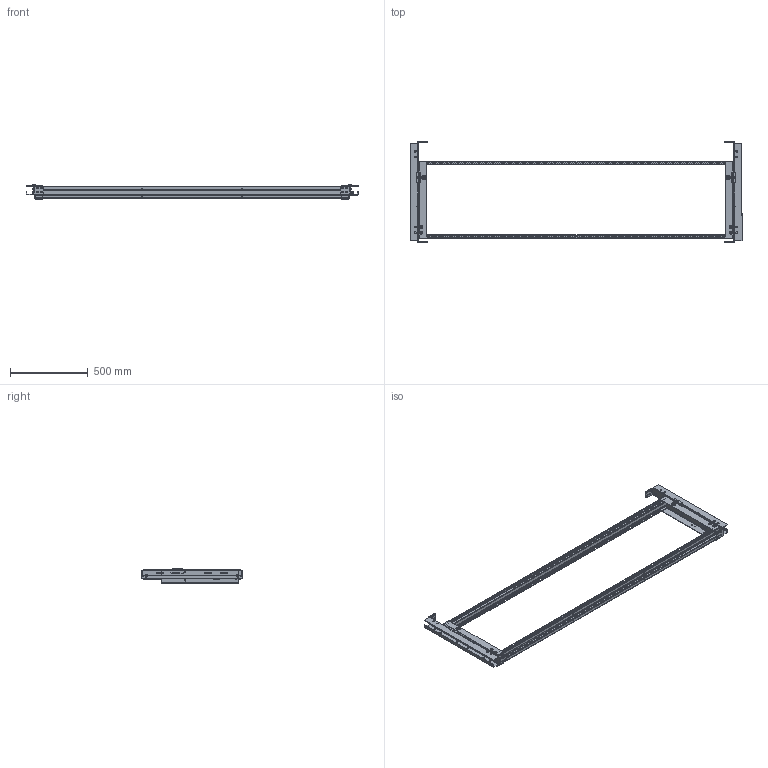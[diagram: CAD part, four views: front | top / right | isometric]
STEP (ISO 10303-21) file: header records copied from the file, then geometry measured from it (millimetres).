
FILE_DESCRIPTION (( 'STEP AP203' ), '1' );
FILE_NAME ('99730.step', '2013-04-16T09:13:57', ( '' ), ( '' ), 'SwSTEP 2.0', 'SolidWorks 2010', '' );
FILE_SCHEMA (( 'CONFIG_CONTROL_DESIGN' ));
Length unit declared in the file: inch
Products named in the file (25): 99730; 11458379; 11458023; 11458024; 11458378; 11258003; 11359731; 11158558_FLEXIBLE; 11158468; 11158400; 87960060; 87959737; 87956874; 11458483; 87932262; 87932266; 87956875; 99405822; 11158467_Defalt; 11258005; 11158474_11158474; 11258009; 11258004; 60113007; 11158473
Assembly tree (32 placements, depth 5):
  99730
    11158558_FLEXIBLE
      11258004
      11258009  x2
      11158400  x2
        11458483
          87956875
          87932266
          87932262
        87960060
          87956874
          87959737
        99405822
      11158473  x4
      11158474_11158474
      11258005
      11158468
      11158467_Defalt
      60113007
    11458379
      11458378  x2
      11258003  x2
      11458023
      11458024
    11359731  x2
Bounding box: 2128.57 x 647.29 x 92.96 mm (x, y, z)
Volume: 2652032.8 mm3; surface area: 2022866.7 mm2
Topology: 28 solids, 36 shells, 3620 faces, 10129 edges, 6586 vertices
Faces by surface type: plane 2880, cylinder 568, cone 98, torus 40, bspline 34
Entity records: 68659 total; most frequent: CARTESIAN_POINT 13753, ORIENTED_EDGE 10948, DIRECTION 10050, EDGE_CURVE 5477, VECTOR 4528, LINE 4528, VERTEX_POINT 3553, AXIS2_PLACEMENT_3D 2761
